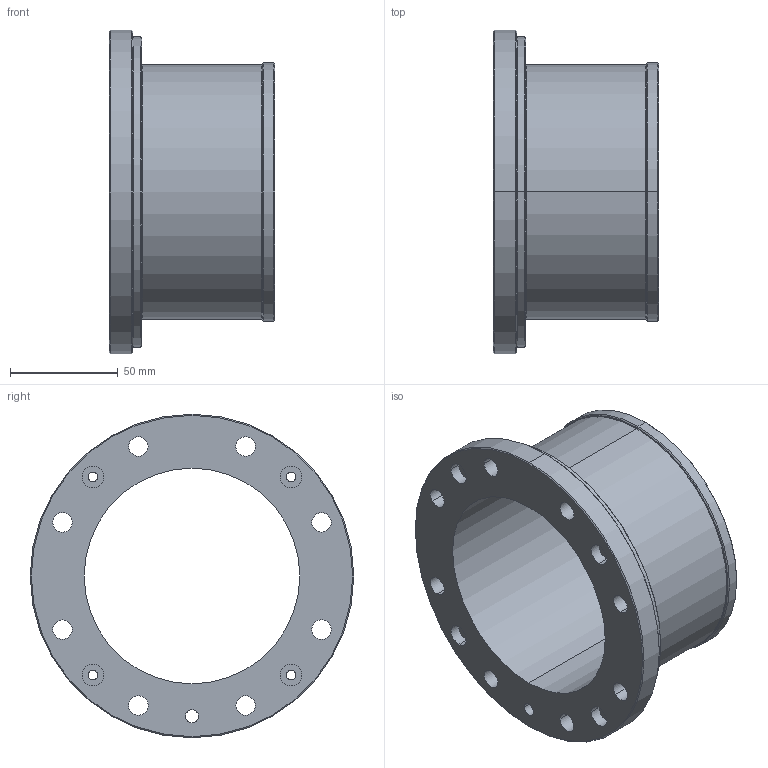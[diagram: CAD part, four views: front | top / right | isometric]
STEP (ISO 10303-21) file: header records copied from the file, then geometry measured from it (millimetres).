
FILE_DESCRIPTION(('CATIA V5 STEP Exchange','CAx-IF Rec.Pracs.--- Model Styling and Organization---1.5--- 2016-08-15','CAx-IF Rec.Pracs.---Supplemental Geometry---1.0---2011-11-01','CAx-IF Rec.Pracs.--- Composite Materials ---1.1---2010-07-15'),'2;1');
FILE_NAME('W:\8-25-003 RENOVATION DEBITMETRE PHI100 A S3\CATIA\Etude\S3MA-8-25003-1011--_SUPPORT_LISSE.stp','2026-02-06T10:13:16+00:00',('none'),('none'),'CATIA Version 5-6 Release 2020 SP6 HF13','CATIA V5 STEP AP214 v2','none');
FILE_SCHEMA(('AUTOMOTIVE_DESIGN { 1 0 10303 214 1 1 1 1 }'));
Length unit declared in the file: millimetre
Products named in the file (1): S3MA-8-25003-1011--_SUPPORT_LISSE
Bounding box: 76.75 x 150 x 150 mm (x, y, z)
Volume: 321083.5 mm3; surface area: 78502.4 mm2
Topology: 1 solids, 1 shells, 83 faces, 192 edges, 120 vertices
Faces by surface type: cylinder 44, torus 14, cone 14, plane 11
Entity records: 2315 total; most frequent: ORIENTED_EDGE 384, CARTESIAN_POINT 369, DIRECTION 304, EDGE_CURVE 192, AXIS2_PLACEMENT_3D 191, CIRCLE 134, EDGE_LOOP 120, VERTEX_POINT 120
